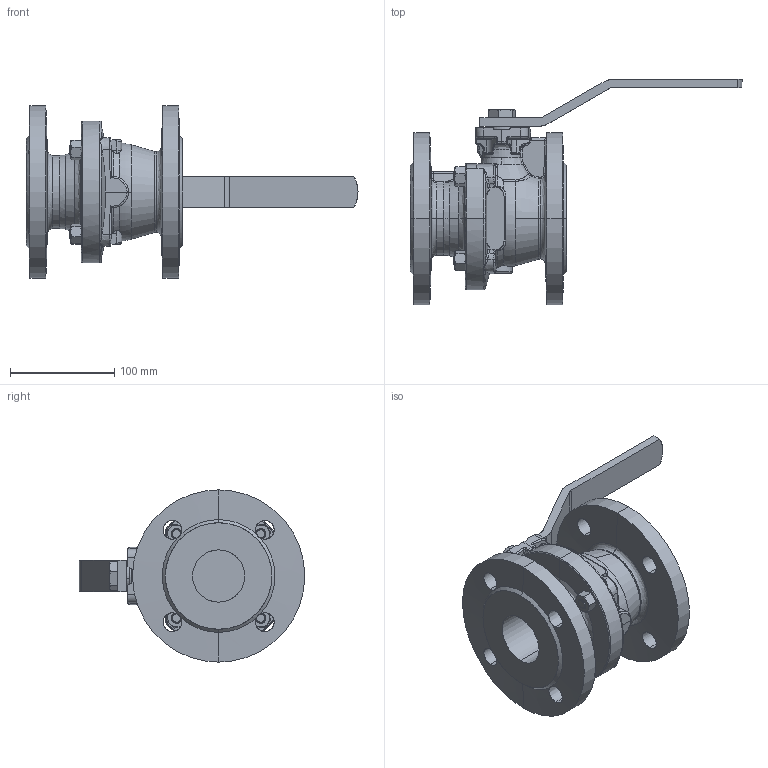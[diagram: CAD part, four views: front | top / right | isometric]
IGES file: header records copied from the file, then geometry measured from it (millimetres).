
Start section: SolidWorks IGES file using analytic representation for surfaces
Global section: file name: C:\Documents and Settings\Luca.Saino\Desktop\Nuova cartella\IGES\B2.100I050L16CN.IGS; native system: SolidWorks 2008; preprocessor: SolidWorks 2008; author: Luca.Saino; date: 080617.083915; units: millimetre
Bounding box: 318 x 216.03 x 165 mm (x, y, z)
Surface area: 198715.8 mm2 (no closed solid volume)
Topology: 0 solids, 0 shells, 782 faces, 10004 edges, 9993 vertices
Faces by surface type: bspline 416, revolution 366
